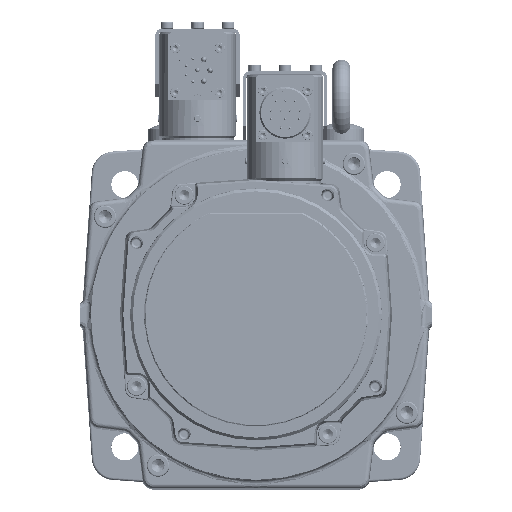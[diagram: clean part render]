
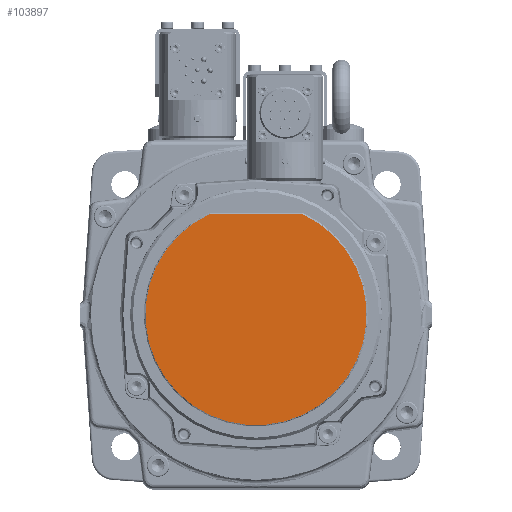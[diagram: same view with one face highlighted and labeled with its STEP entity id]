
A CAD part, top view. The second image highlights one B-rep face of the part: STEP entity #103897.
In plain terms, the highlighted planar face has unit normal (0, 0, 1).
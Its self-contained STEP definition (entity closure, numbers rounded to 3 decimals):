
#96469=CARTESIAN_POINT('',(0.,0.,63.9));
#96470=DIRECTION('',(0.,0.,-1.));
#96471=DIRECTION('',(0.418,0.908,0.));
#96472=AXIS2_PLACEMENT_3D('',#96469,#96470,#96471);
#96481=DIRECTION('',(-1.,0.,0.));
#96482=VECTOR('',#96481,41.125);
#96483=CARTESIAN_POINT('',(20.562,44.7,63.9));
#96484=LINE('',#96483,#96482);
#97145=CARTESIAN_POINT('',(20.562,44.7,63.9));
#97146=CARTESIAN_POINT('',(-20.562,44.7,63.9));
#97147=VERTEX_POINT('',#97145);
#97148=VERTEX_POINT('',#97146);
#103888=CARTESIAN_POINT('',(0.,0.,63.9));
#103889=DIRECTION('',(0.,0.,1.));
#103890=DIRECTION('',(1.,0.,0.));
#103891=AXIS2_PLACEMENT_3D('',#103888,#103889,#103890);
#103892=PLANE('',#103891);
#103893=ORIENTED_EDGE('',*,*,#103867,.T.);
#103894=ORIENTED_EDGE('',*,*,#103879,.F.);
#103895=EDGE_LOOP('',(#103893,#103894));
#103896=FACE_OUTER_BOUND('',#103895,.F.);
#103897=ADVANCED_FACE('',(#103896),#103892,.T.);
#96473=CIRCLE('',#96472,49.203);
#103867=EDGE_CURVE('',#97147,#97148,#96473,.T.);
#103879=EDGE_CURVE('',#97147,#97148,#96484,.T.);
